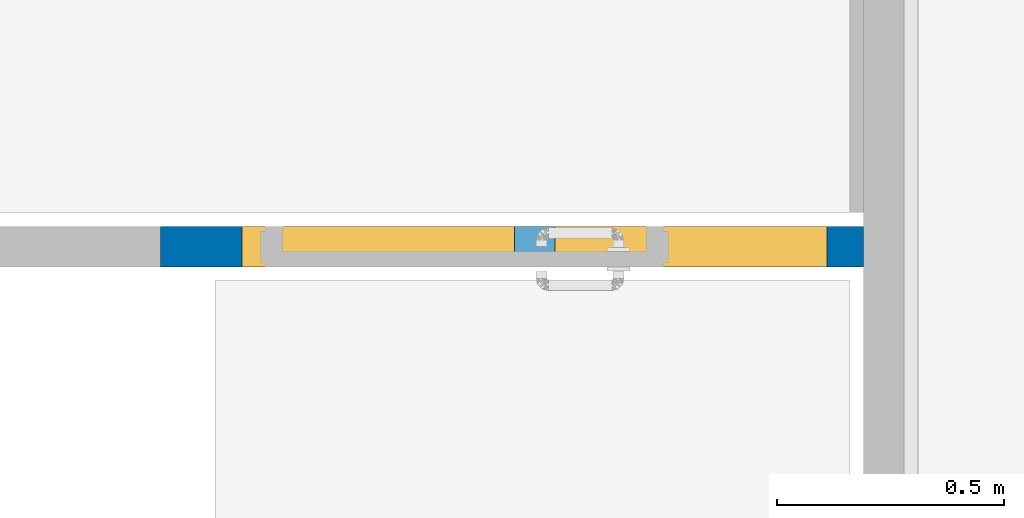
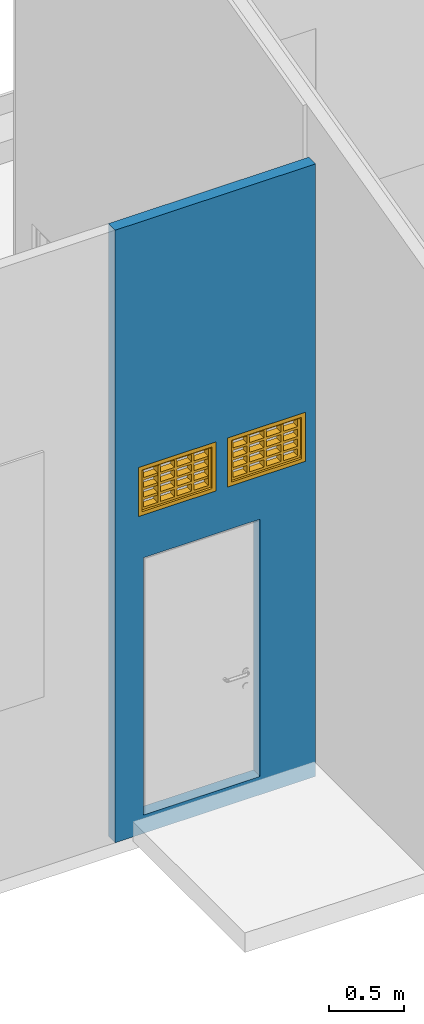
"""IFC2X3 building model written with IfcOpenShell, lengths in metres."""

from ifc_helpers import new_model, entity, si_unit, converted_unit, derived_unit, direction, frame, frame_2d, origin, origin_2d_with_axis, place, context, subcontext, project, spatial, polyline, rectangle, outline, extrude, source, transform, mapped, material, layer, layer_set, layer_usage, type_object, type_shapes, element, fill, save


model = new_model("IFC2X3")

# Units and contexts
model_context = context("Model", 3, precision=1e-05, world=origin(), true_north=direction((6.12303176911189e-17, 1.0)))
body_context = subcontext(model_context, "Body", "Model", "MODEL_VIEW")
ifc_project = project(units=[si_unit("LENGTHUNIT", "METRE"), si_unit("AREAUNIT", "SQUARE_METRE"), si_unit("VOLUMEUNIT", "CUBIC_METRE"), converted_unit("PLANEANGLEUNIT", "DEGREE", entity("IfcRatioMeasure", 0.0174532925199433), si_unit("PLANEANGLEUNIT", "RADIAN"), dimensions=[0, 0, 0, 0, 0, 0, 0]), si_unit("MASSUNIT", "GRAM", prefix="KILO"), derived_unit("MASSDENSITYUNIT", [(si_unit("MASSUNIT", "GRAM", prefix="KILO"), 1), (si_unit("LENGTHUNIT", "METRE"), -3)]), si_unit("TIMEUNIT", "SECOND"), si_unit("FREQUENCYUNIT", "HERTZ"), si_unit("THERMODYNAMICTEMPERATUREUNIT", "DEGREE_CELSIUS"), derived_unit("THERMALTRANSMITTANCEUNIT", [(si_unit("MASSUNIT", "GRAM", prefix="KILO"), 1), (si_unit("THERMODYNAMICTEMPERATUREUNIT", "KELVIN"), -1), (si_unit("TIMEUNIT", "SECOND"), -3)]), derived_unit("VOLUMETRICFLOWRATEUNIT", [(si_unit("LENGTHUNIT", "METRE"), 3), (si_unit("TIMEUNIT", "SECOND"), -1)]), si_unit("ELECTRICCURRENTUNIT", "AMPERE"), si_unit("ELECTRICVOLTAGEUNIT", "VOLT"), si_unit("POWERUNIT", "WATT"), si_unit("FORCEUNIT", "NEWTON", prefix="KILO"), si_unit("ILLUMINANCEUNIT", "LUX"), si_unit("LUMINOUSFLUXUNIT", "LUMEN"), si_unit("LUMINOUSINTENSITYUNIT", "CANDELA"), derived_unit("USERDEFINED", [(si_unit("MASSUNIT", "GRAM", prefix="KILO"), -1), (si_unit("LENGTHUNIT", "METRE"), -2), (si_unit("TIMEUNIT", "SECOND"), 3), (si_unit("LUMINOUSFLUXUNIT", "LUMEN"), 1)]), derived_unit("LINEARVELOCITYUNIT", [(si_unit("LENGTHUNIT", "METRE"), 1), (si_unit("TIMEUNIT", "SECOND"), -1)]), si_unit("PRESSUREUNIT", "PASCAL"), derived_unit("USERDEFINED", [(si_unit("LENGTHUNIT", "METRE"), -2), (si_unit("MASSUNIT", "GRAM", prefix="KILO"), 1), (si_unit("TIMEUNIT", "SECOND"), -2)])], contexts=[model_context])

# Site, building, storey
site_placement = place(None, frame((26.9889013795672, -17.5624287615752, 0.0)))
site = spatial("IfcSite", under=ifc_project, at=site_placement, Name="Default", CompositionType="ELEMENT")
building_placement = place(site_placement, origin())
building = spatial("IfcBuilding", under=site, at=building_placement, Name="C. C. L. Monsenhor Antônio Sampaio", CompositionType="ELEMENT")
storey_1_placement = place(building_placement, frame((0.0, 0.0, 0.799999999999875)))
storey_1 = spatial("IfcBuildingStorey", under=building, at=storey_1_placement, Name="Nível 0.8", CompositionType="ELEMENT", Elevation=0.799999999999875)

# Wall, openings
ifc_material_1 = material(Name="ALVENARIA")
ifc_layer = layer(ifc_material_1, 0.09)
ifc_layer_set = layer_set([ifc_layer], Name="Parede básica:ENucleo parede 15cm")
ifc_layer_usage = layer_usage(ifc_layer_set, "AXIS2", "NEGATIVE", 0.045)
wall_type = type_object("IfcWallType", Name="Parede básica:ENucleo parede 15cm", PredefinedType="STANDARD", material=ifc_layer_set)
wall_placement = place(storey_1_placement, frame((2.20943400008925, -26.7280663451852, 0.0)))
wall = element("IfcWallStandardCase", 1, at=wall_placement, inside=storey_1, type_object=wall_type, material=ifc_layer_usage, Name="Parede básica:ENucleo parede 15cm", ObjectType="Parede básica:ENucleo parede 15cm", context=body_context, shape_type="SweptSolid", body=[
    extrude(rectangle(XDim=1.54994316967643, YDim=0.0899999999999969, at=frame_2d((0.774971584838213, 0.0), x_axis=(-1.0, 0.0))), origin(), (0.0, 0.0, 1.0), 5.00000000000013),
])
opening_1_placement = place(wall_placement, frame((1.12001370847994, 0.0449999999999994, 0.15)))
element("IfcOpeningElement", 2, at=opening_1_placement, cuts=wall, Name="Porta levantamento:90 x 211 AZUL:1", ObjectType="Opening", context=body_context, shape_type="SweptSolid", body=[
    extrude(rectangle(XDim=2.09999999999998, YDim=0.9, at=frame_2d((1.04999999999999, 0.45), x_axis=(1.0, 0.0))), frame((0.0, 0.0, 0.0), z_axis=(0.0, -1.0, 0.0), x_axis=(0.0, 0.0, 1.0)), (0.0, 0.0, 1.0), 0.09),
])
opening_2_placement = place(wall_placement, frame((0.179971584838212, -0.0449999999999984, 2.6)))
opening_2 = element("IfcOpeningElement", 3, at=opening_2_placement, cuts=wall, Name="Cobogó:Cobogó c1- 1.20 x 0.40/1.0:1", ObjectType="Opening", context=body_context, shape_type="SweptSolid", body=[
    extrude(rectangle(XDim=0.400000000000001, YDim=0.6, at=frame_2d((0.200000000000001, 0.3), x_axis=(1.0, 0.0))), frame((0.0, 0.0, 0.0), z_axis=(0.0, 1.0, 0.0), x_axis=(0.0, 0.0, 1.0)), (0.0, 0.0, 1.0), 0.09),
])
opening_3_placement = place(wall_placement, frame((1.46994316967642, 0.0449999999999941, 2.6)))
opening_3 = element("IfcOpeningElement", 4, at=opening_3_placement, cuts=wall, Name="Cobogó:Cobogó c1- 1.20 x 0.40/1.0:1", ObjectType="Opening", context=body_context, shape_type="SweptSolid", body=[
    extrude(rectangle(XDim=0.400000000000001, YDim=0.6, at=frame_2d((0.200000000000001, 0.3), x_axis=(1.0, 0.0))), frame((0.0, 0.0, 0.0), z_axis=(0.0, -1.0, 0.0), x_axis=(0.0, 0.0, 1.0)), (0.0, 0.0, 1.0), 0.09),
])

# Storey
storey_2_placement = place(building_placement, frame((0.0, 0.0, 1.19999999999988)))
storey_2 = spatial("IfcBuildingStorey", under=building, at=storey_2_placement, Name="Nível 1.2", CompositionType="ELEMENT", Elevation=1.19999999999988)

# Window
ifc_material_2 = material(Name="000B_Cobogó_Cimento")
window_style = type_object("IfcWindowStyle", Name="Cobogó c1- 1.20 x 0.40/1.0", ConstructionType="OTHER_CONSTRUCTION", OperationType="NOTDEFINED", ParameterTakesPrecedence=False, Sizeable=False, material=ifc_material_2)
shared_shape = source(origin(), body_context, "Body", "SweptSolid", [
    extrude(rectangle(XDim=0.02, YDim=0.057, at=origin_2d_with_axis()), frame((0.17, 0.045, 0.0499999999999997), z_axis=(0.0, 0.0, 1.0), x_axis=(-1.0, 0.0, 0.0)), (0.0, 0.0, 1.0), 0.3),
    extrude(rectangle(XDim=0.02, YDim=0.057, at=origin_2d_with_axis()), frame((0.3, 0.045, 0.0499999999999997), z_axis=(0.0, 0.0, 1.0), x_axis=(-1.0, 0.0, 0.0)), (0.0, 0.0, 1.0), 0.3),
    extrude(rectangle(XDim=0.02, YDim=0.057, at=origin_2d_with_axis()), frame((0.43, 0.045, 0.0499999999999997), z_axis=(0.0, 0.0, 1.0), x_axis=(-1.0, 0.0, 0.0)), (0.0, 0.0, 1.0), 0.3),
    extrude(rectangle(XDim=0.54, YDim=0.055, at=origin_2d_with_axis()), frame((0.3, 0.045, 0.270000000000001), z_axis=(0.0, 0.0, 1.0), x_axis=(-1.0, 0.0, 0.0)), (0.0, 0.0, 1.0), 0.0200000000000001),
    extrude(rectangle(XDim=0.54, YDim=0.055, at=origin_2d_with_axis()), frame((0.3, 0.045, 0.19), z_axis=(0.0, 0.0, 1.0), x_axis=(-1.0, 0.0, 0.0)), (0.0, 0.0, 1.0), 0.0200000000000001),
    extrude(rectangle(XDim=0.54, YDim=0.055, at=origin_2d_with_axis()), frame((0.3, 0.045, 0.11), z_axis=(0.0, 0.0, 1.0), x_axis=(-1.0, 0.0, 0.0)), (0.0, 0.0, 1.0), 0.0200000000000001),
    extrude(rectangle(XDim=0.02, YDim=0.057, at=frame_2d((3.38271077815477e-17, 0.0), x_axis=(1.0, 0.0))), frame((0.0400000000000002, 0.045, 0.0499999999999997), z_axis=(0.0, 0.0, 1.0), x_axis=(-1.0, 0.0, 0.0)), (0.0, 0.0, 1.0), 0.3),
    extrude(rectangle(XDim=0.02, YDim=0.057, at=origin_2d_with_axis()), frame((0.56, 0.045, 0.0499999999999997), z_axis=(0.0, 0.0, 1.0), x_axis=(-1.0, 0.0, 0.0)), (0.0, 0.0, 1.0), 0.3),
    extrude(rectangle(XDim=0.54, YDim=0.055, at=origin_2d_with_axis()), frame((0.3, 0.045, 0.350000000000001), z_axis=(0.0, 0.0, 1.0), x_axis=(-1.0, 0.0, 0.0)), (0.0, 0.0, 1.0), 0.0200000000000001),
    extrude(rectangle(XDim=0.54, YDim=0.055, at=origin_2d_with_axis()), frame((0.3, 0.045, 0.0299999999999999), z_axis=(0.0, 0.0, 1.0), x_axis=(-1.0, 0.0, 0.0)), (0.0, 0.0, 1.0), 0.0200000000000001),
    extrude(outline(polyline([(-0.3, -0.200000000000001), (0.3, -0.200000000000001), (0.3, 0.2), (-0.3, 0.2), (-0.3, -0.200000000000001)]), holes=[polyline([(0.27, -0.170000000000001), (-0.27, -0.170000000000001), (-0.27, 0.17), (0.27, 0.17), (0.27, -0.170000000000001)])]), frame((0.3, 0.0, 0.2), z_axis=(0.0, 1.0, 0.0), x_axis=(1.0, 0.0, 0.0)), (0.0, 0.0, 1.0), 0.09),
])
type_shapes(window_style, [shared_shape])
window_1_placement = place(opening_3_placement, frame((0.0, 0.0, 0.0), z_axis=(0.0, 0.0, 1.0), x_axis=(-1.0, 0.0, 0.0)))
window_1 = element("IfcWindow", 5, at=window_1_placement, inside=storey_2, type_object=window_style, material=ifc_material_2, Name="Cobogó:Cobogó c1- 1.20 x 0.40/1.0", ObjectType="Cobogó c1- 1.20 x 0.40/1.0", OverallHeight=0.400000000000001, OverallWidth=0.6, context=body_context, shape_type="MappedRepresentation", body=[
    mapped(shared_shape, transform((0.0, 0.0, 0.0), scale=1.0)),
])

fill(opening_3, window_1)

window_2_placement = place(opening_2_placement, origin())
window_2 = element("IfcWindow", 6, at=window_2_placement, inside=storey_2, type_object=window_style, material=ifc_material_2, Name="Cobogó:Cobogó c1- 1.20 x 0.40/1.0", ObjectType="Cobogó c1- 1.20 x 0.40/1.0", OverallHeight=0.400000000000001, OverallWidth=0.6, context=body_context, shape_type="MappedRepresentation", body=[
    mapped(shared_shape, transform((0.0, 0.0, 0.0), scale=1.0)),
])

fill(opening_2, window_2)

save(model, "model.ifc")
